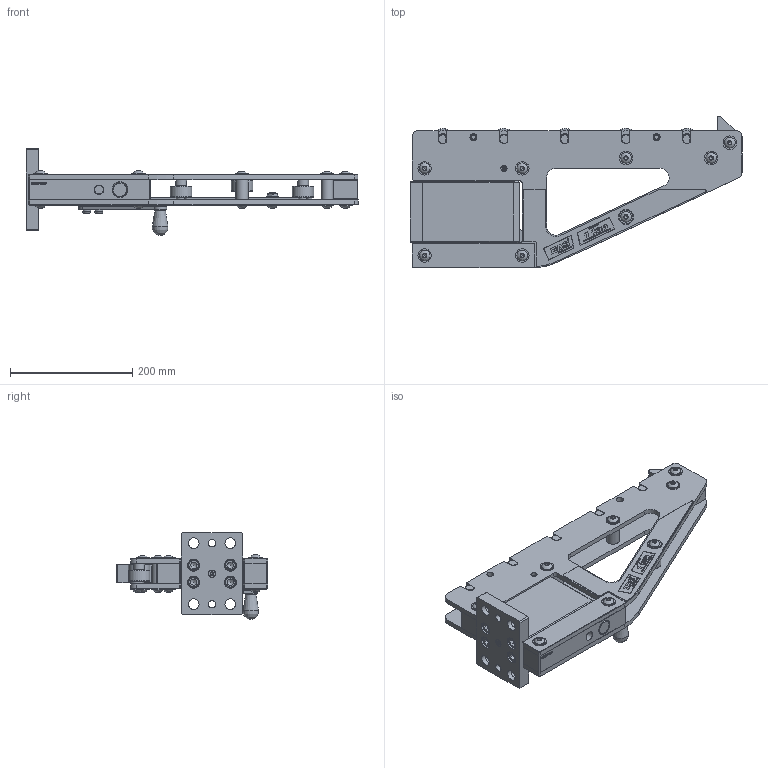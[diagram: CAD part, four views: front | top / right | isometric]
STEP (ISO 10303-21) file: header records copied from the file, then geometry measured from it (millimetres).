
FILE_DESCRIPTION(/* description */ ('CONSOLE PLATE RIGHT'),/* implementation_level */ '2;1');
FILE_NAME(/* name */ 'C:\Users\jaccow\AppData\Local\Temp\Cadac\NetworkPub\step\FB655-950.iam.stp',/* time_stamp */ '2017-12-14T12:17:46+01:00',/* author */ ('Yue'),/* organization */ (''),/* preprocessor_version */ 'ST-DEVELOPER v16.1',/* originating_system */ 'Autodesk Inventor 2016',/* authorisation */ '');
FILE_SCHEMA (('AUTOMOTIVE_DESIGN { 1 0 10303 214 3 1 1 }'));
Products named in the file (35): FB630-101; FB622-186; FB832-690; FB676-690; FB620-044; FB621-104; FB627-104; DQ1504-281; FB624-101; CAE1100-1081A; DQ1397-120; FB841-026; CCE1020-028-9A; FB842-026; FB828-298; FB629-950; FB631-101; FB831-690; CCA1225-0281A; FB633-061; FB632-070; PP0306-070; CBA821-0281B; CAA1231-0612C; PP0307-155; PP0308-155; PP0309-110; PP0304-108; PP0378-108; PP0377-130; FB637-950; PP0311-071; FB653-104; CCA615-0285C; FB655-950
Assembly tree (76 placements, depth 3):
  FB655-950
    FB629-950
      FB630-101  x2
      FB622-186  x3
      FB832-690
      FB676-690
      FB620-044
      FB621-104  x5
      FB627-104  x5
      DQ1504-281  x5
      FB624-101
      CAE1100-1081A  x2
      DQ1397-120  x2
      FB841-026
      CCE1020-028-9A  x18
      FB842-026
      FB828-298
    FB637-950
      FB631-101
      FB831-690
      CCA1225-0281A  x4
      FB633-061
      FB632-070
      PP0306-070
      CBA821-0281B
      CAA1231-0612C
      PP0307-155  x2
      PP0308-155
      PP0309-110
      PP0304-108  x2
      PP0378-108  x2
      PP0377-130  x2
    PP0311-071
    FB653-104
    CCA615-0285C  x2
Bounding box: 544 x 248.57 x 142.51 mm (x, y, z)
Volume: 2882107.7 mm3; surface area: 782952.5 mm2
Topology: 94 solids, 94 shells, 3672 faces, 9080 edges, 5944 vertices
Faces by surface type: plane 2080, bspline 865, cylinder 371, cone 266, torus 89, sphere 1
Full cylindrical faces by diameter (mm): 1.215 x5, 2.4 x5, 3 x1, 4.773 x2, 4.917 x4, 4.918 x1, 6 x4, 6.4 x1, 6.647 x1, 7.42 x2, 8 x5, 8.1 x1, 8.376 x10, 8.4 x4, 8.5 x1, 10 x27, 10.106 x4, 10.5 x2, 11 x2, 11.5 x6, 12 x6, 12.1 x3, 13 x2, 13.5 x4, 15 x12, 15.425 x1, 15.95 x5, 16 x15, 16.1 x1, 17 x2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
Entity records: 93764 total; most frequent: CARTESIAN_POINT 29351, ORIENTED_EDGE 14310, DIRECTION 10047, EDGE_CURVE 7146, LINE 4925, VECTOR 4925, VERTEX_POINT 4854, EDGE_LOOP 3419
